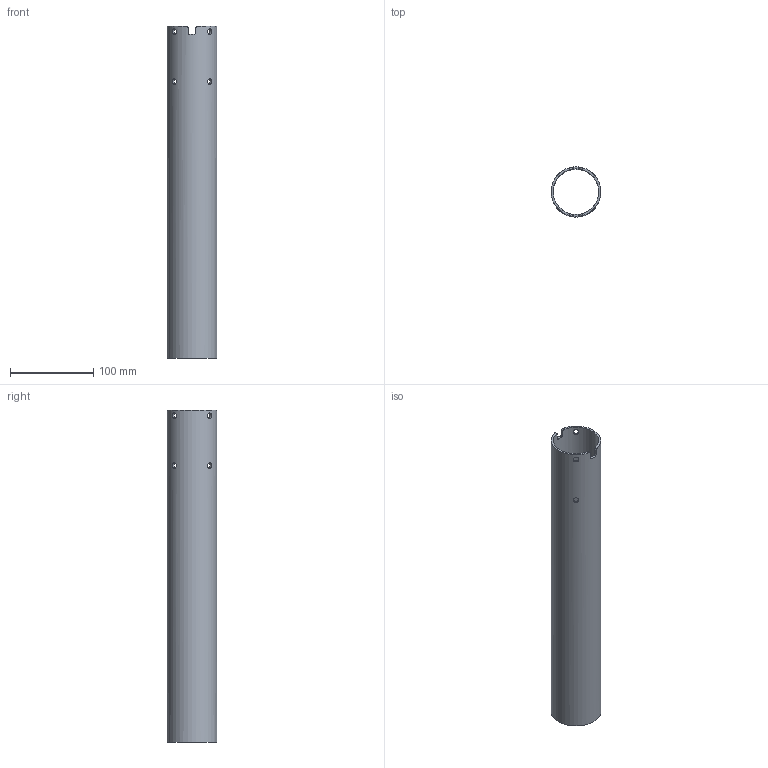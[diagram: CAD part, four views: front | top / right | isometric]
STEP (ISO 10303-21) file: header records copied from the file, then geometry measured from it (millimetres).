
FILE_DESCRIPTION (( 'STEP AP214' ), '1' );
FILE_NAME ('抯奪.STEP', '2024-09-04T09:21:35', ( '' ), ( '' ), 'SwSTEP 2.0', 'SolidWorks 2021', '' );
FILE_SCHEMA (( 'AUTOMOTIVE_DESIGN' ));
Length unit declared in the file: millimetre
Products named in the file (1): 抯奪
Bounding box: 60 x 60 x 400 mm (x, y, z)
Volume: 179397.5 mm3; surface area: 144942.2 mm2
Topology: 1 solids, 1 shells, 27 faces, 78 edges, 52 vertices
Faces by surface type: cylinder 18, plane 9
Full cylindrical faces by diameter (mm): 7 x8, 55 x1, 60 x1
Entity records: 2092 total; most frequent: CARTESIAN_POINT 1416, ORIENTED_EDGE 132, DIRECTION 100, EDGE_CURVE 66, EDGE_LOOP 54, VERTEX_POINT 50, AXIS2_PLACEMENT_3D 38, FACE_OUTER_BOUND 37
